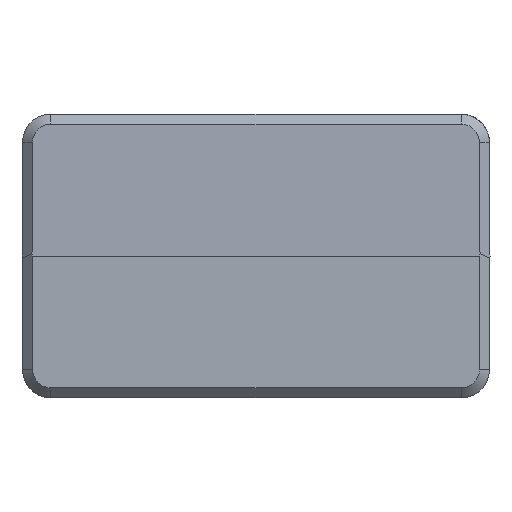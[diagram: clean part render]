
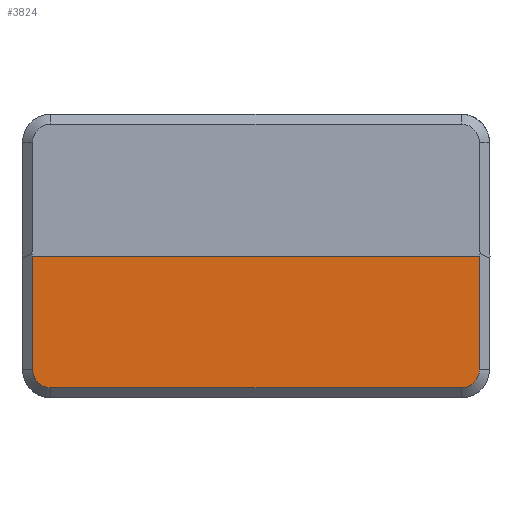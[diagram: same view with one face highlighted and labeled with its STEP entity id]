
A CAD part, front view. The second image highlights one B-rep face of the part: STEP entity #3824.
In plain terms, the highlighted planar face has unit normal (0, -1, -0.005).
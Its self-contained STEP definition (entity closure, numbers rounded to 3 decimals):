
#1 = DIRECTION ( 'NONE',  ( 0.005, 0.005, -1. ) ) ;
#15 = LINE ( 'NONE', #685, #746 ) ;
#194 = PLANE ( 'NONE',  #1855 ) ;
#196 = VERTEX_POINT ( 'NONE', #1413 ) ;
#250 = CARTESIAN_POINT ( 'NONE',  ( 18.251, 0.042, -8.01 ) ) ;
#265 = LINE ( 'NONE', #4355, #3505 ) ;
#321 = CARTESIAN_POINT ( 'NONE',  ( 18.293, 0., 0. ) ) ;
#348 = EDGE_CURVE ( 'NONE', #1992, #196, #1446, .T. ) ;
#381 = CARTESIAN_POINT ( 'NONE',  ( 18.292, 0.001, -0.195 ) ) ;
#627 = CARTESIAN_POINT ( 'NONE',  ( 18.216, 0.044, -8.348 ) ) ;
#685 = CARTESIAN_POINT ( 'NONE',  ( 16.958, 0.049, -9.296 ) ) ;
#734 = EDGE_CURVE ( 'NONE', #973, #1303, #4106, .T. ) ;
#746 = VECTOR ( 'NONE', #2189, 1000. ) ;
#773 = DIRECTION ( 'NONE',  ( 0., 0.005, -1. ) ) ;
#776 = EDGE_CURVE ( 'NONE', #196, #2575, #2385, .T. ) ;
#831 = CARTESIAN_POINT ( 'NONE',  ( -13.215, 0.044, -8.348 ) ) ;
#841 = CARTESIAN_POINT ( 'NONE',  ( -11.958, 0.049, -9.296 ) ) ;
#859 = ORIENTED_EDGE ( 'NONE', *, *, #348, .T. ) ;
#973 = VERTEX_POINT ( 'NONE', #3390 ) ;
#994 = CARTESIAN_POINT ( 'NONE',  ( 17.75, 0.047, -9.039 ) ) ;
#1135 = DIRECTION ( 'NONE',  ( 0., -1., -0.005 ) ) ;
#1193 = CARTESIAN_POINT ( 'NONE',  ( -12.607, 0.048, -9.134 ) ) ;
#1248 = CARTESIAN_POINT ( 'NONE',  ( -13.25, 0.043, -8.179 ) ) ;
#1303 = VERTEX_POINT ( 'NONE', #321 ) ;
#1314 = VECTOR ( 'NONE', #1, 1000. ) ;
#1413 = CARTESIAN_POINT ( 'NONE',  ( -13.251, 0.042, -8.01 ) ) ;
#1429 = CARTESIAN_POINT ( 'NONE',  ( 17.295, 0.049, -9.263 ) ) ;
#1446 = LINE ( 'NONE', #2312, #1314 ) ;
#1543 = DIRECTION ( 'NONE',  ( 0.005, -0.005, 1. ) ) ;
#1554 = VECTOR ( 'NONE', #1543, 1000. ) ;
#1579 = ORIENTED_EDGE ( 'NONE', *, *, #3437, .T. ) ;
#1645 = CARTESIAN_POINT ( 'NONE',  ( -12.296, 0.049, -9.263 ) ) ;
#1705 = CARTESIAN_POINT ( 'NONE',  ( -19., 0., 0. ) ) ;
#1719 = CARTESIAN_POINT ( 'NONE',  ( -13.293, 0., 0. ) ) ;
#1781 = B_SPLINE_CURVE_WITH_KNOTS ( 'NONE', 3,
 ( #4736, #3726, #1429, #2861, #994, #2498, #4002, #627, #2132, #250 ),
 .UNSPECIFIED., .F., .F.,
 ( 4, 2, 2, 2, 4 ),
 ( 0., 0.25, 0.5, 0.75, 1. ),
 .UNSPECIFIED. ) ;
#1825 = ORIENTED_EDGE ( 'NONE', *, *, #4353, .T. ) ;
#1855 = AXIS2_PLACEMENT_3D ( 'NONE', #1705, #1135, #773 ) ;
#1992 = VERTEX_POINT ( 'NONE', #1719 ) ;
#2051 = ORIENTED_EDGE ( 'NONE', *, *, #734, .T. ) ;
#2122 = DIRECTION ( 'NONE',  ( 1., 0., 0. ) ) ;
#2132 = CARTESIAN_POINT ( 'NONE',  ( 18.25, 0.043, -8.18 ) ) ;
#2189 = DIRECTION ( 'NONE',  ( 1., 0., 0. ) ) ;
#2312 = CARTESIAN_POINT ( 'NONE',  ( -13.293, 0., 0.03 ) ) ;
#2360 = CARTESIAN_POINT ( 'NONE',  ( -13.251, 0.042, -8.01 ) ) ;
#2385 = B_SPLINE_CURVE_WITH_KNOTS ( 'NONE', 3,
 ( #2360, #1248, #831, #4644, #3807, #4181, #1193, #1645, #3099, #3152 ),
 .UNSPECIFIED., .F., .F.,
 ( 4, 2, 2, 2, 4 ),
 ( 0., 0.25, 0.5, 0.75, 1. ),
 .UNSPECIFIED. ) ;
#2498 = CARTESIAN_POINT ( 'NONE',  ( 17.989, 0.046, -8.801 ) ) ;
#2575 = VERTEX_POINT ( 'NONE', #841 ) ;
#2732 = EDGE_CURVE ( 'NONE', #1992, #1303, #265, .T. ) ;
#2861 = CARTESIAN_POINT ( 'NONE',  ( 17.607, 0.048, -9.134 ) ) ;
#2934 = CARTESIAN_POINT ( 'NONE',  ( 16.958, 0.049, -9.296 ) ) ;
#3099 = CARTESIAN_POINT ( 'NONE',  ( -12.127, 0.049, -9.296 ) ) ;
#3152 = CARTESIAN_POINT ( 'NONE',  ( -11.958, 0.049, -9.296 ) ) ;
#3390 = CARTESIAN_POINT ( 'NONE',  ( 18.251, 0.042, -8.01 ) ) ;
#3429 = ORIENTED_EDGE ( 'NONE', *, *, #776, .T. ) ;
#3437 = EDGE_CURVE ( 'NONE', #2575, #3598, #15, .T. ) ;
#3505 = VECTOR ( 'NONE', #2122, 1000. ) ;
#3574 = FACE_OUTER_BOUND ( 'NONE', #3764, .T. ) ;
#3598 = VERTEX_POINT ( 'NONE', #2934 ) ;
#3726 = CARTESIAN_POINT ( 'NONE',  ( 17.127, 0.049, -9.296 ) ) ;
#3764 = EDGE_LOOP ( 'NONE', ( #4156, #859, #3429, #1579, #1825, #2051 ) ) ;
#3807 = CARTESIAN_POINT ( 'NONE',  ( -12.989, 0.046, -8.801 ) ) ;
#3824 = ADVANCED_FACE ( 'NONE', ( #3574 ), #194, .T. ) ;
#4002 = CARTESIAN_POINT ( 'NONE',  ( 18.085, 0.045, -8.658 ) ) ;
#4106 = LINE ( 'NONE', #381, #1554 ) ;
#4156 = ORIENTED_EDGE ( 'NONE', *, *, #2732, .F. ) ;
#4181 = CARTESIAN_POINT ( 'NONE',  ( -12.75, 0.047, -9.039 ) ) ;
#4353 = EDGE_CURVE ( 'NONE', #3598, #973, #1781, .T. ) ;
#4355 = CARTESIAN_POINT ( 'NONE',  ( -19., 0., 0. ) ) ;
#4644 = CARTESIAN_POINT ( 'NONE',  ( -13.085, 0.045, -8.658 ) ) ;
#4736 = CARTESIAN_POINT ( 'NONE',  ( 16.958, 0.049, -9.296 ) ) ;
